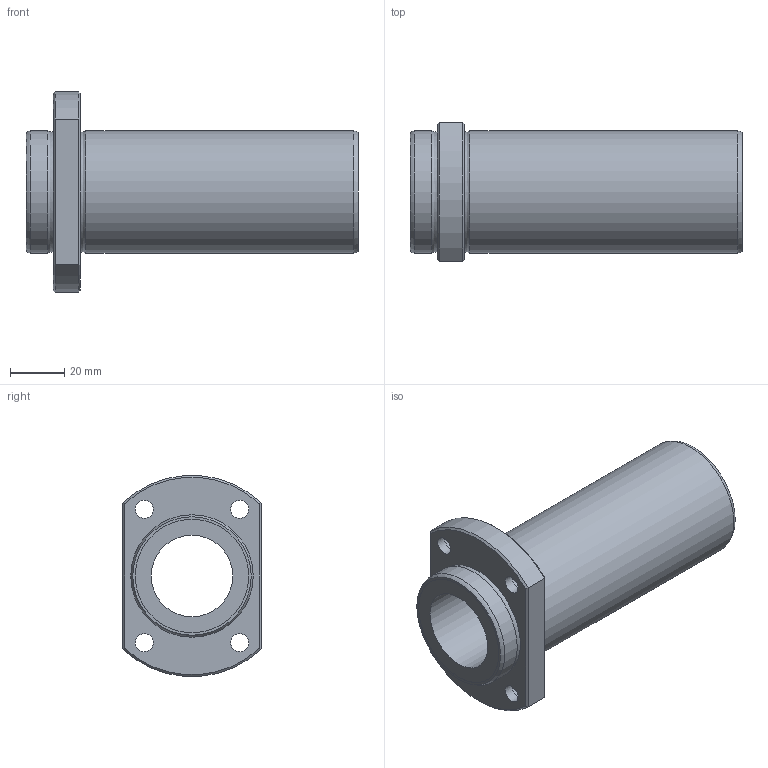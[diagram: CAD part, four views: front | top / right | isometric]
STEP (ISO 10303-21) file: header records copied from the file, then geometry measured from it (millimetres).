
FILE_DESCRIPTION((''),'2;1');
FILE_NAME('D:\製品 (図面)\カタログ用3D\リニアベアリング関連\STEP形式\LFDTB\LFDTB30B.stp','2010-06-03T09:53:10',('Tsuchiya'),(''),'Autodesk Inventor 10','Autodesk Inventor 10','');
FILE_SCHEMA(('AUTOMOTIVE_DESIGN { 1 0 10303 214 1 1 1 1 }'));
Length unit declared in the file: millimetre
Products named in the file (1): LFDTB30B
Bounding box: 122 x 51 x 73.74 mm (x, y, z)
Volume: 122846.2 mm3; surface area: 35726.3 mm2
Topology: 1 solids, 1 shells, 39 faces, 75 edges, 46 vertices
Faces by surface type: bspline 14, plane 12, cylinder 7, cone 4, torus 2
Full cylindrical faces by diameter (mm): 30 x1, 41.7 x2, 45 x2
Entity records: 1177 total; most frequent: CARTESIAN_POINT 440, DIRECTION 140, ORIENTED_EDGE 116, EDGE_LOOP 74, AXIS2_PLACEMENT_3D 64, EDGE_CURVE 58, VERTEX_POINT 46, FACE_OUTER_BOUND 39
